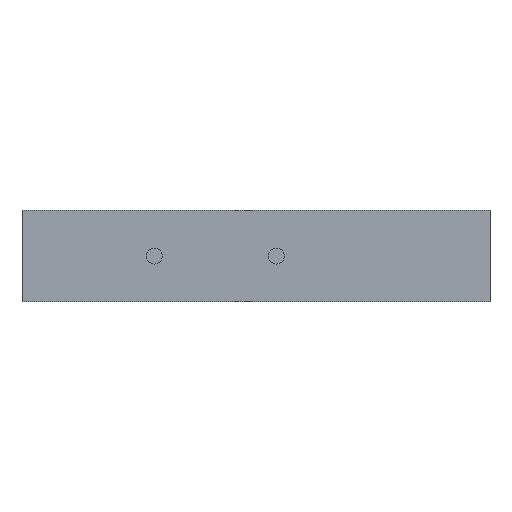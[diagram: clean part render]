
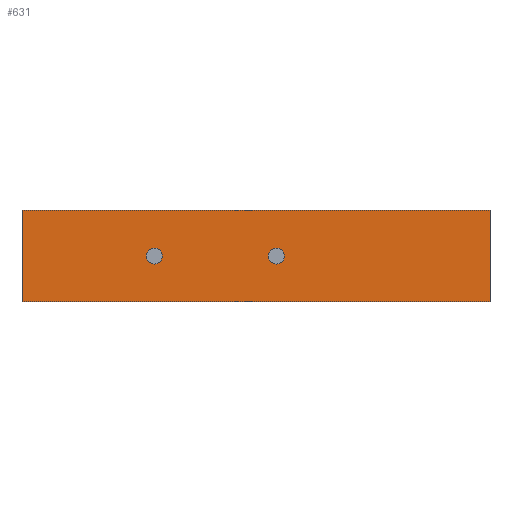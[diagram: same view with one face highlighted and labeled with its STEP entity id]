
A CAD part, front view. The second image highlights one B-rep face of the part: STEP entity #631.
In plain terms, the highlighted planar face has unit normal (0, -1, 0).
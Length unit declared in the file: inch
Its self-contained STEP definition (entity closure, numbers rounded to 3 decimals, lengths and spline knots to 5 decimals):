
#409=CARTESIAN_POINT('',(0.15157,-2.06225,-0.0005));
#410=VERTEX_POINT('',#409);
#419=CARTESIAN_POINT('',(0.34843,-2.06225,-0.0005));
#420=VERTEX_POINT('',#419);
#421=CARTESIAN_POINT('',(0.25,-2.06225,-0.0005));
#422=DIRECTION('',(0.0,1.0,0.0));
#423=DIRECTION('',(-1.0,0.0,0.0));
#424=AXIS2_PLACEMENT_3D('',#421,#422,#423);
#425=CIRCLE('',#424,0.09843);
#426=EDGE_CURVE('',#420,#410,#425,.T.);
#451=CARTESIAN_POINT('',(-1.34843,-2.06225,-0.0005));
#452=VERTEX_POINT('',#451);
#461=CARTESIAN_POINT('',(-1.15157,-2.06225,-0.0005));
#462=VERTEX_POINT('',#461);
#463=CARTESIAN_POINT('',(-1.25,-2.06225,-0.0005));
#464=DIRECTION('',(0.0,1.0,0.0));
#465=DIRECTION('',(-1.0,0.0,0.0));
#466=AXIS2_PLACEMENT_3D('',#463,#464,#465);
#467=CIRCLE('',#466,0.09843);
#468=EDGE_CURVE('',#462,#452,#467,.T.);
#502=CARTESIAN_POINT('',(-1.25,-2.06225,-0.0005));
#503=DIRECTION('',(0.0,1.0,0.0));
#504=DIRECTION('',(-1.0,0.0,0.0));
#505=AXIS2_PLACEMENT_3D('',#502,#503,#504);
#506=CIRCLE('',#505,0.09843);
#507=EDGE_CURVE('',#452,#462,#506,.T.);
#526=CARTESIAN_POINT('',(0.25,-2.06225,-0.0005));
#527=DIRECTION('',(0.0,1.0,0.0));
#528=DIRECTION('',(-1.0,0.0,0.0));
#529=AXIS2_PLACEMENT_3D('',#526,#527,#528);
#530=CIRCLE('',#529,0.09843);
#531=EDGE_CURVE('',#410,#420,#530,.T.);
#584=CARTESIAN_POINT('',(0.0,-2.06225,0.0));
#585=DIRECTION('',(0.0,1.0,0.0));
#586=DIRECTION('',(-1.0,0.0,0.0));
#587=AXIS2_PLACEMENT_3D('',#584,#585,#586);
#588=PLANE('',#587);
#589=CARTESIAN_POINT('',(-2.875,-2.06225,0.5625));
#590=VERTEX_POINT('',#589);
#591=CARTESIAN_POINT('',(-2.875,-2.06225,-0.5625));
#592=VERTEX_POINT('',#591);
#593=CARTESIAN_POINT('',(-2.875,-2.06225,0.5625));
#594=DIRECTION('',(0.0,0.0,-1.0));
#595=VECTOR('',#594,1.125);
#596=LINE('',#593,#595);
#597=EDGE_CURVE('',#590,#592,#596,.T.);
#598=ORIENTED_EDGE('',*,*,#597,.T.);
#599=CARTESIAN_POINT('',(2.875,-2.06225,-0.5625));
#600=VERTEX_POINT('',#599);
#601=CARTESIAN_POINT('',(-2.875,-2.06225,-0.5625));
#602=DIRECTION('',(1.0,0.0,0.0));
#603=VECTOR('',#602,5.75);
#604=LINE('',#601,#603);
#605=EDGE_CURVE('',#592,#600,#604,.T.);
#606=ORIENTED_EDGE('',*,*,#605,.T.);
#607=CARTESIAN_POINT('',(2.875,-2.06225,0.5625));
#608=VERTEX_POINT('',#607);
#609=CARTESIAN_POINT('',(2.875,-2.06225,-0.5625));
#610=DIRECTION('',(0.0,0.0,1.0));
#611=VECTOR('',#610,1.125);
#612=LINE('',#609,#611);
#613=EDGE_CURVE('',#600,#608,#612,.T.);
#614=ORIENTED_EDGE('',*,*,#613,.T.);
#615=CARTESIAN_POINT('',(2.875,-2.06225,0.5625));
#616=DIRECTION('',(-1.0,0.0,0.0));
#617=VECTOR('',#616,5.75);
#618=LINE('',#615,#617);
#619=EDGE_CURVE('',#608,#590,#618,.T.);
#620=ORIENTED_EDGE('',*,*,#619,.T.);
#621=EDGE_LOOP('',(#598,#606,#614,#620));
#622=FACE_OUTER_BOUND('',#621,.T.);
#623=ORIENTED_EDGE('',*,*,#507,.T.);
#624=ORIENTED_EDGE('',*,*,#468,.T.);
#625=EDGE_LOOP('',(#623,#624));
#626=FACE_BOUND('',#625,.T.);
#627=ORIENTED_EDGE('',*,*,#531,.T.);
#628=ORIENTED_EDGE('',*,*,#426,.T.);
#629=EDGE_LOOP('',(#627,#628));
#630=FACE_BOUND('',#629,.T.);
#631=ADVANCED_FACE('',(#622,#626,#630),#588,.F.);
